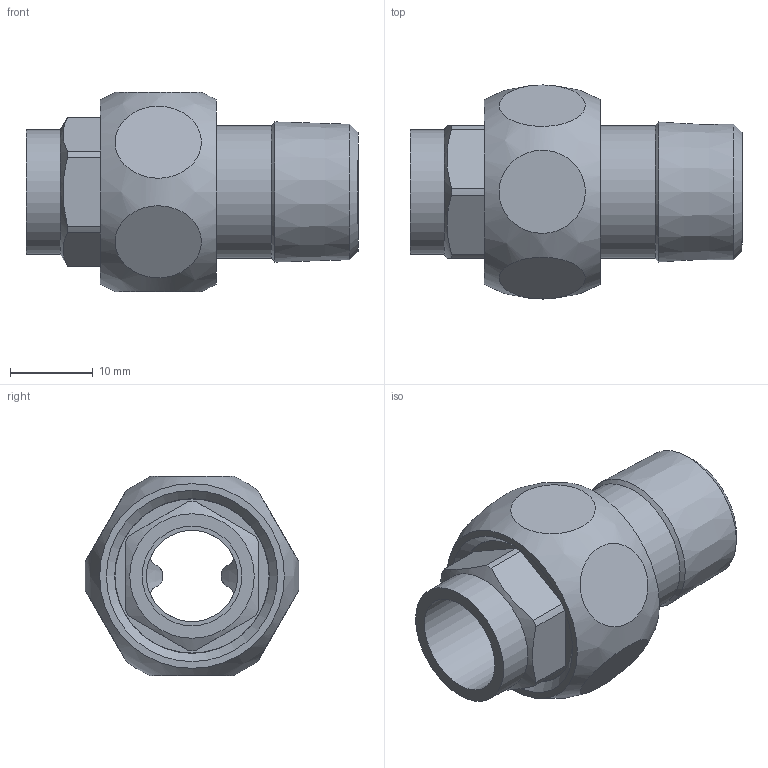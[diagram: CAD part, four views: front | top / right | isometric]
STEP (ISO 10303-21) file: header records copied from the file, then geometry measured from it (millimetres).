
FILE_DESCRIPTION(/* description */ (''),/* implementation_level */ '2;1');
FILE_NAME(/* name */ '14331_12-38(2).stp',/* time_stamp */ '2024-03-06T06:53:43+01:00',/* author */ ('gomulka'),/* organization */ (''),/* preprocessor_version */ 'ST-DEVELOPER v20',/* originating_system */ 'Autodesk Inventor 2024',/* authorisation */ '');
FILE_SCHEMA (('AUTOMOTIVE_DESIGN { 1 0 10303 214 3 1 1 }'));
Length unit declared in the file: millimetre
Products named in the file (5): 14331_12-38(2); 1DCU12; 14370_12-12(2); R14374_12(2); 14371_38-12(1)
Assembly tree (4 placements, depth 2):
  14331_12-38(2)
    1DCU12
    14370_12-12(2)
    R14374_12(2)
    14371_38-12(1)
Bounding box: 40 x 25.78 x 24 mm (x, y, z)
Volume: 8276.2 mm3; surface area: 6889.3 mm2
Topology: 4 solids, 4 shells, 60 faces, 124 edges, 82 vertices
Faces by surface type: cylinder 24, plane 24, cone 11, bspline 1
Full cylindrical faces by diameter (mm): 11 x2, 12 x1, 15 x1, 16 x1, 16.9 x1, 18 x1, 18.5 x1, 18.63 x1, 20.96 x1
Entity records: 2248 total; most frequent: CARTESIAN_POINT 767, DIRECTION 285, ORIENTED_EDGE 248, EDGE_CURVE 124, AXIS2_PLACEMENT_3D 121, VERTEX_POINT 82, EDGE_LOOP 78, FACE_OUTER_BOUND 60
